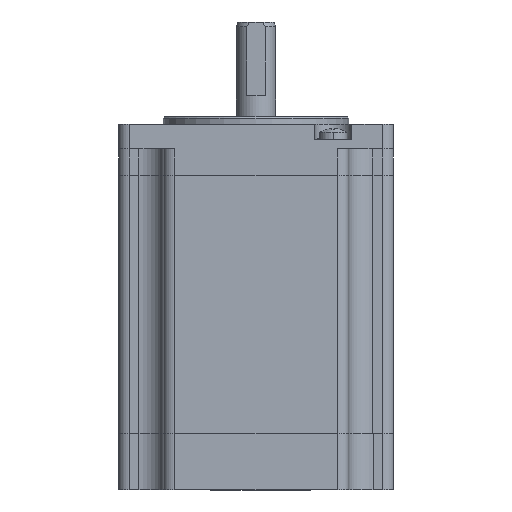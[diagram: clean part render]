
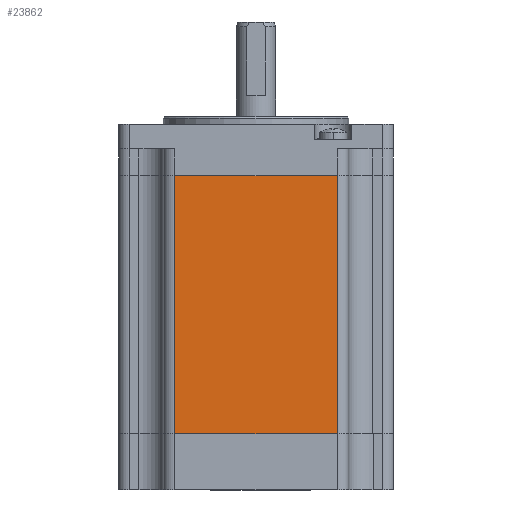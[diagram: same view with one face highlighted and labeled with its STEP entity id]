
A CAD part, front view. The second image highlights one B-rep face of the part: STEP entity #23862.
In plain terms, the highlighted planar face has unit normal (0, -1, 0).
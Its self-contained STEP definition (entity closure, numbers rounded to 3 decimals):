
#1222 = AXIS2_PLACEMENT_3D ( 'NONE', #39781, #39780, #39779 ) ;
#23604 = EDGE_CURVE ( 'NONE', #34757, #34758, #30182, .T. ) ;
#23606 = EDGE_CURVE ( 'NONE', #34755, #34756, #30183, .T. ) ;
#23607 = EDGE_CURVE ( 'NONE', #34758, #34756, #30184, .T. ) ;
#23608 = EDGE_CURVE ( 'NONE', #34757, #34755, #30185, .T. ) ;
#23862 = ADVANCED_FACE ( 'NONE', ( #30423 ), #39782, .T. ) ;
#26883 = ORIENTED_EDGE ( 'NONE', *, *, #23607, .T. ) ;
#26884 = ORIENTED_EDGE ( 'NONE', *, *, #23608, .F. ) ;
#26885 = ORIENTED_EDGE ( 'NONE', *, *, #23606, .F. ) ;
#26886 = ORIENTED_EDGE ( 'NONE', *, *, #23604, .T. ) ;
#29501 = VECTOR ( 'NONE', #37261, 1000. ) ;
#29504 = VECTOR ( 'NONE', #37256, 1000. ) ;
#29505 = VECTOR ( 'NONE', #37254, 1000. ) ;
#29507 = VECTOR ( 'NONE', #37252, 1000. ) ;
#30182 = LINE ( 'NONE', #37262, #29501 ) ;
#30183 = LINE ( 'NONE', #37257, #29504 ) ;
#30184 = LINE ( 'NONE', #37255, #29505 ) ;
#30185 = LINE ( 'NONE', #37253, #29507 ) ;
#30423 = FACE_OUTER_BOUND ( 'NONE', #45532, .T. ) ;
#34755 = VERTEX_POINT ( 'NONE', #35439 ) ;
#34756 = VERTEX_POINT ( 'NONE', #35438 ) ;
#34757 = VERTEX_POINT ( 'NONE', #35437 ) ;
#34758 = VERTEX_POINT ( 'NONE', #35436 ) ;
#35436 = CARTESIAN_POINT ( 'NONE',  ( -16.7, -28.2, 0. ) ) ;
#35437 = CARTESIAN_POINT ( 'NONE',  ( -16.7, -28.2, 53. ) ) ;
#35438 = CARTESIAN_POINT ( 'NONE',  ( 16.7, -28.2, 0. ) ) ;
#35439 = CARTESIAN_POINT ( 'NONE',  ( 16.7, -28.2, 53. ) ) ;
#37252 = DIRECTION ( 'NONE',  ( 1., 0., 0. ) ) ;
#37253 = CARTESIAN_POINT ( 'NONE',  ( 0., -28.2, 53. ) ) ;
#37254 = DIRECTION ( 'NONE',  ( 1., 0., 0. ) ) ;
#37255 = CARTESIAN_POINT ( 'NONE',  ( 0., -28.2, 0. ) ) ;
#37256 = DIRECTION ( 'NONE',  ( 0., 0., -1. ) ) ;
#37257 = CARTESIAN_POINT ( 'NONE',  ( 16.7, -28.2, 122.091 ) ) ;
#37261 = DIRECTION ( 'NONE',  ( 0., 0., -1. ) ) ;
#37262 = CARTESIAN_POINT ( 'NONE',  ( -16.7, -28.2, 0. ) ) ;
#39779 = DIRECTION ( 'NONE',  ( 0., 0., -1. ) ) ;
#39780 = DIRECTION ( 'NONE',  ( 0., -1., 0. ) ) ;
#39781 = CARTESIAN_POINT ( 'NONE',  ( -19., -28.2, 0. ) ) ;
#39782 = PLANE ( 'NONE',  #1222 ) ;
#45532 = EDGE_LOOP ( 'NONE', ( #26883, #26885, #26884, #26886 ) ) ;
